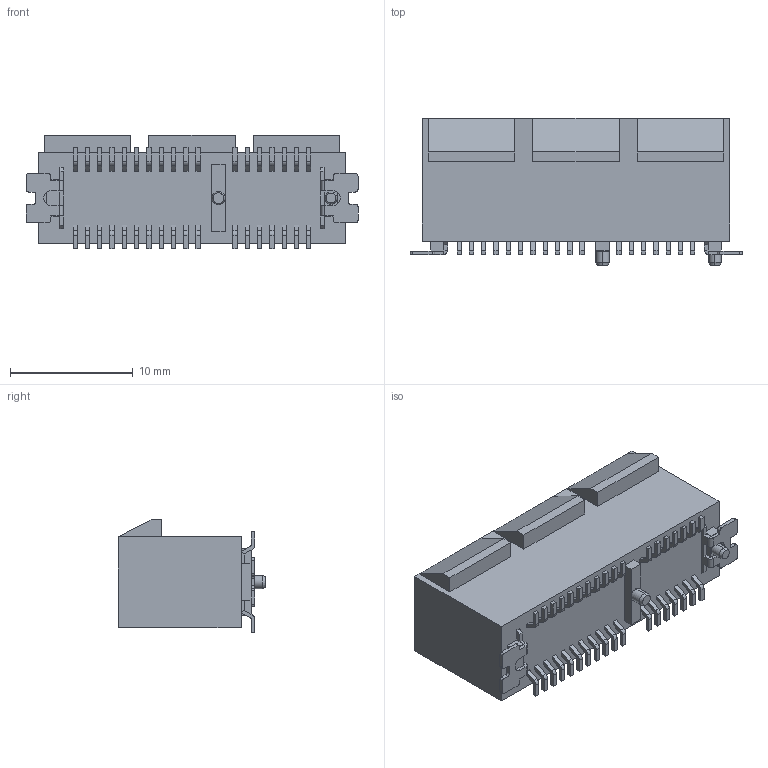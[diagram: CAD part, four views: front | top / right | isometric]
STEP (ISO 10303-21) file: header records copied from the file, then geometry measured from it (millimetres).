
FILE_DESCRIPTION (( 'STEP AP214' ), '1' );
FILE_NAME ('10061913-100RLF.STEP', '2023-05-08T12:25:00', ( '' ), ( '' ), 'SwSTEP 2.0', 'SolidWorks 2021', '' );
FILE_SCHEMA (( 'AUTOMOTIVE_DESIGN' ));
Length unit declared in the file: millimetre
Products named in the file (1): 10061913-100RLF
Bounding box: 27 x 12 x 9.2 mm (x, y, z)
Volume: 1675.9 mm3; surface area: 1614 mm2
Topology: 39 solids, 39 shells, 512 faces, 1243 edges, 812 vertices
Faces by surface type: plane 406, cylinder 102, cone 4
Entity records: 15179 total; most frequent: CARTESIAN_POINT 2568, ORIENTED_EDGE 2486, DIRECTION 2477, EDGE_CURVE 1243, LINE 1035, VECTOR 1035, VERTEX_POINT 812, AXIS2_PLACEMENT_3D 721
